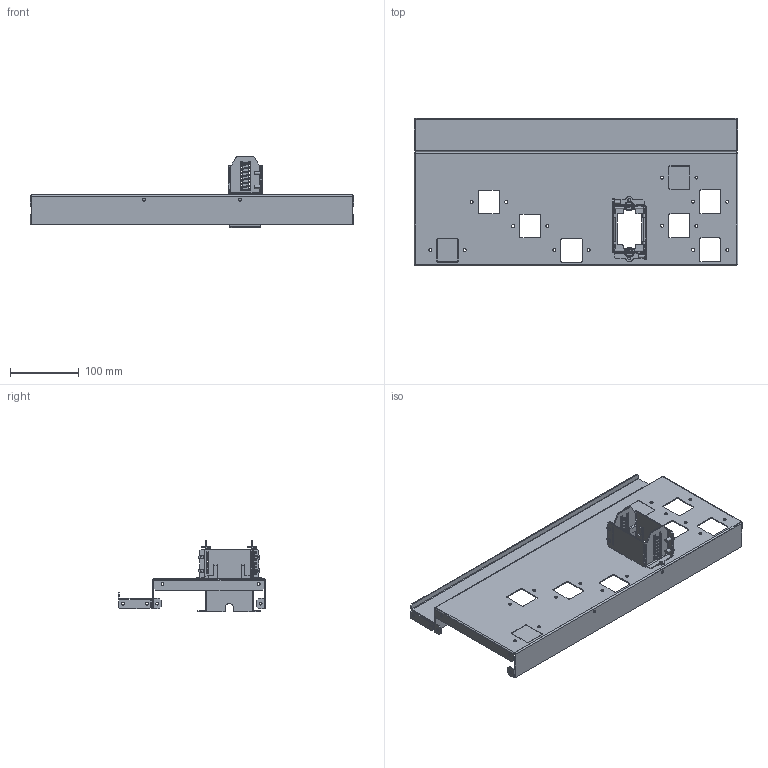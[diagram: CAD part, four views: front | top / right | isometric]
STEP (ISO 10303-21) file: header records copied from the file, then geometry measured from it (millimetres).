
FILE_DESCRIPTION(('CAx-IF Rec.Pracs.---Model Styling and Organization---1.2---2011-12-15','CAx-IF Rec.Pracs.---Geometric and Assembly Validation Properties---4.1---2014-06-16','CAx-IF Rec.Pracs.---PMI Polyline Presentation---2.0---2013-05-24'),'2;1');
FILE_NAME('R5M2W5M1BR22.stp','2021-05-05T12:28:59+03:00',(''),(''),'STEP Interface 4.4 by CT CoreTechnologie','3D_Evolution4.4 by CT CoreTechnologie','');
FILE_SCHEMA(('AUTOMOTIVE_DESIGN { 1 0 10303 214 1 1 1 1 }'));
Length unit declared in the file: millimetre
Products named in the file (9): R5M2W5M1BR22; RB.1507.00.00.0_-00; RB.1567.00.00.0_-00; RB.1765.00.00.0 ÑÁ; RB.1571.00.00.0_In prestressed condition - 40 mm; M5x8-DIN7500C_stright; RB.1570.00.00.0; RB.1569.00.00.1_-00; RB.1506.00.00.0_-03
Assembly tree (14 placements, depth 3):
  R5M2W5M1BR22
    RB.1507.00.00.0_-00
    RB.1567.00.00.0_-00
    RB.1765.00.00.0 ÑÁ
      RB.1571.00.00.0_In prestressed condition - 40 mm  x2
      M5x8-DIN7500C_stright  x4
      RB.1570.00.00.0  x2
      RB.1569.00.00.1_-00  x2
    RB.1506.00.00.0_-03
Bounding box: 470 x 214.2 x 103.8 mm (x, y, z)
Surface area: 360013.7 mm2 (no closed solid volume)
Topology: 0 solids, 23 shells, 758 faces, 2007 edges, 1295 vertices
Faces by surface type: plane 494, cylinder 234, bspline 30
Entity records: 19871 total; most frequent: CARTESIAN_POINT 4707, ORIENTED_EDGE 3034, DIRECTION 3031, EDGE_CURVE 1517, VECTOR 1109, LINE 1109, VERTEX_POINT 977, AXIS2_PLACEMENT_3D 961
